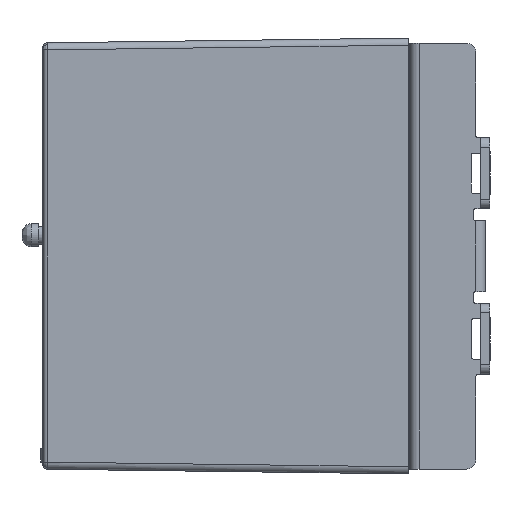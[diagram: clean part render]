
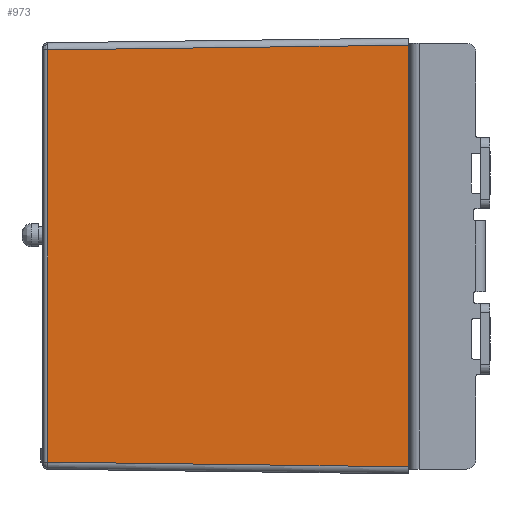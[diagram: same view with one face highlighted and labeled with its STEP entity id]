
A CAD part, left-side view. The second image highlights one B-rep face of the part: STEP entity #973.
In plain terms, the highlighted planar face has unit normal (-1, 0.013, 0).
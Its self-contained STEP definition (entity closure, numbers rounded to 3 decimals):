
#379 = PLANE ( 'NONE',  #5142 ) ;
#531 = CARTESIAN_POINT ( 'NONE',  ( -59.04, 0.765, 0. ) ) ;
#973 = ADVANCED_FACE ( 'NONE', ( #10291 ), #379, .T. ) ;
#1297 = ORIENTED_EDGE ( 'NONE', *, *, #26332, .T. ) ;
#1396 = EDGE_CURVE ( 'NONE', #6511, #30498, #26132, .T. ) ;
#4588 = CARTESIAN_POINT ( 'NONE',  ( -58.063, 76.213, -43.563 ) ) ;
#5142 = AXIS2_PLACEMENT_3D ( 'NONE', #531, #12659, #19755 ) ;
#6511 = VERTEX_POINT ( 'NONE', #21807 ) ;
#7398 = ORIENTED_EDGE ( 'NONE', *, *, #21165, .T. ) ;
#7468 = LINE ( 'NONE', #21788, #18453 ) ;
#9610 = EDGE_CURVE ( 'NONE', #22875, #27475, #7468, .T. ) ;
#10291 = FACE_OUTER_BOUND ( 'NONE', #16249, .T. ) ;
#12659 = DIRECTION ( 'NONE',  ( -1., 0.013, 0. ) ) ;
#12687 = ORIENTED_EDGE ( 'NONE', *, *, #9610, .F. ) ;
#14630 = CARTESIAN_POINT ( 'NONE',  ( -58.063, 76.213, 43.563 ) ) ;
#15023 = VECTOR ( 'NONE', #15431, 1000. ) ;
#15431 = DIRECTION ( 'NONE',  ( 0., 0., 1. ) ) ;
#16249 = EDGE_LOOP ( 'NONE', ( #7398, #12687, #1297, #19454 ) ) ;
#16966 = DIRECTION ( 'NONE',  ( 0., 0., -1. ) ) ;
#17183 = VECTOR ( 'NONE', #30985, 1000. ) ;
#17784 = LINE ( 'NONE', #27380, #15023 ) ;
#18453 = VECTOR ( 'NONE', #24158, 1000. ) ;
#19176 = CARTESIAN_POINT ( 'NONE',  ( -58.063, 76.213, 0. ) ) ;
#19454 = ORIENTED_EDGE ( 'NONE', *, *, #1396, .T. ) ;
#19755 = DIRECTION ( 'NONE',  ( -0.013, -1., 0. ) ) ;
#20401 = VECTOR ( 'NONE', #16966, 1000. ) ;
#21165 = EDGE_CURVE ( 'NONE', #30498, #27475, #17784, .T. ) ;
#21194 = CARTESIAN_POINT ( 'NONE',  ( -59.05, 0., -44.55 ) ) ;
#21788 = CARTESIAN_POINT ( 'NONE',  ( -59.033, 1.342, 44.533 ) ) ;
#21807 = CARTESIAN_POINT ( 'NONE',  ( -58.063, 76.213, -43.563 ) ) ;
#22875 = VERTEX_POINT ( 'NONE', #14630 ) ;
#24158 = DIRECTION ( 'NONE',  ( -0.013, -1., 0.013 ) ) ;
#24209 = CARTESIAN_POINT ( 'NONE',  ( -59.05, 0., 44.55 ) ) ;
#25668 = LINE ( 'NONE', #19176, #20401 ) ;
#26132 = LINE ( 'NONE', #4588, #17183 ) ;
#26332 = EDGE_CURVE ( 'NONE', #22875, #6511, #25668, .T. ) ;
#27380 = CARTESIAN_POINT ( 'NONE',  ( -59.05, 0., 0. ) ) ;
#27475 = VERTEX_POINT ( 'NONE', #24209 ) ;
#30498 = VERTEX_POINT ( 'NONE', #21194 ) ;
#30985 = DIRECTION ( 'NONE',  ( -0.013, -1., -0.013 ) ) ;
